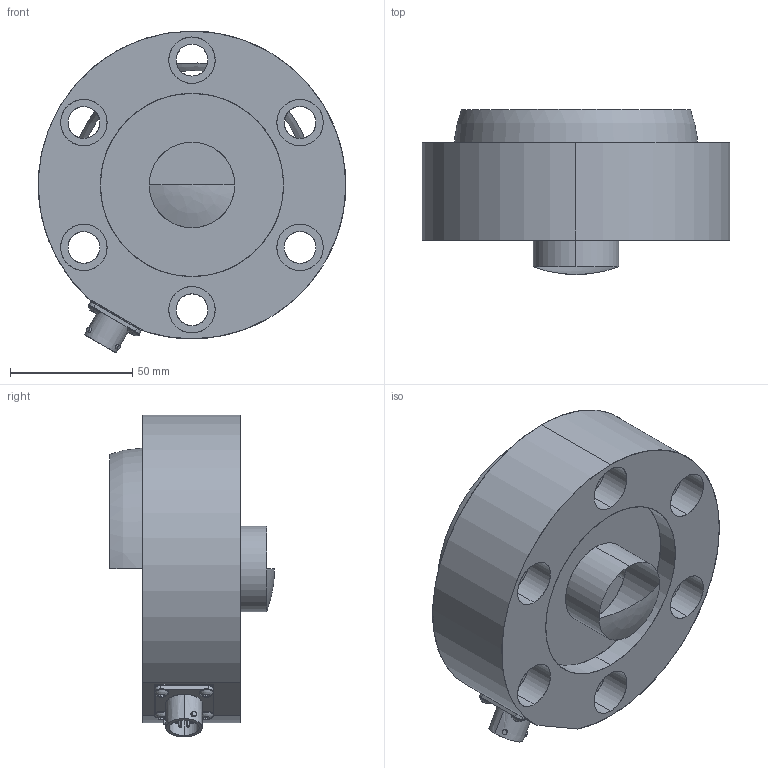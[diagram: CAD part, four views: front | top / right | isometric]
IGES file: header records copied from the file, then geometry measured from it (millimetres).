
Start section: SolidWorks IGES file using analytic representation for surfaces
Global section: file name: K:\Disegni Catalogo\Celle\CM\CM-K20M-C-S\3D\Solidworks 2013\CM-K20M-C-S.IGS; native system: SolidWorks 2013; preprocessor: SolidWorks 2013; author: Loda-w1; date: 130624.111453; units: millimetre
Bounding box: 125.97 x 67.5 x 131.76 mm (x, y, z)
Surface area: 74748.5 mm2 (no closed solid volume)
Topology: 0 solids, 0 shells, 711 faces, 7636 edges, 7619 vertices
Faces by surface type: revolution 405, bspline 306
